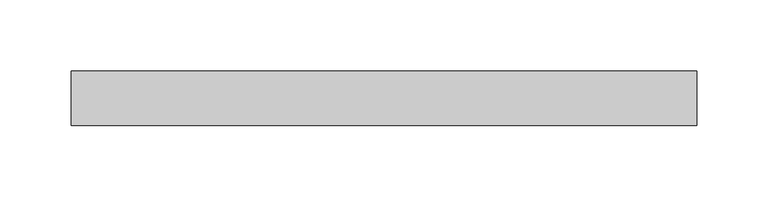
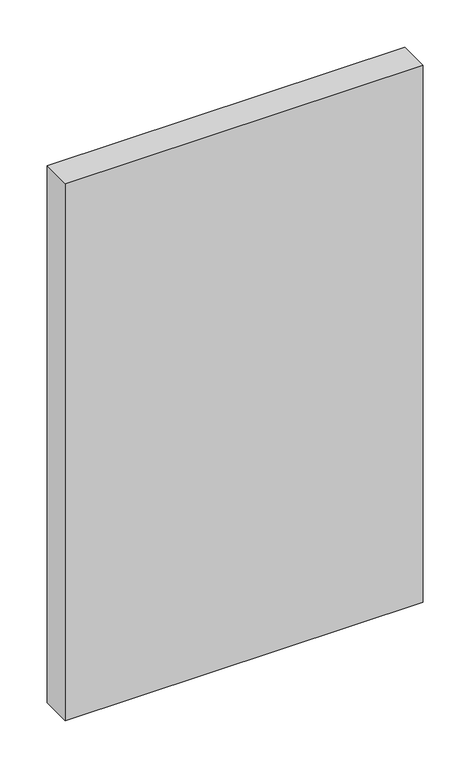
"""IFC4 building model written with IfcOpenShell, lengths in millimetres: proxy geometry, FOUNDATION^PEDESTAL_PLINTH-17.25x27.38."""

from ifc_helpers import new_model, si_unit, frame, origin, place, context, project, spatial, polyline, outline, extrude, source, transform, mapped, element, save


def generic_models_fd82de5f(model_context):
    return source(origin(), model_context, "Body", "SweptSolid", [
        extrude(outline(polyline([(438.15, 0.0), (0.0, 0.0), (0.0, 38.1), (438.15, 38.1), (438.15, 0.0)])), frame((0.0, 0.0, -695.325), z_axis=(0.0, 0.0, 1.0), x_axis=(1.0, 0.0, 0.0)), (0.0, 0.0, 1.0), 695.325),
    ])


if __name__ == "__main__":
    model = new_model("IFC4")
    model_context = context("Model", 3, world=origin())
    ifc_project = project(units=[si_unit("LENGTHUNIT", "METRE", prefix="MILLI")], contexts=[model_context])
    site = spatial("IfcSite", under=ifc_project)
    building = spatial("IfcBuilding", under=site)
    placement = place(None, origin())
    generic_models_shape = generic_models_fd82de5f(model_context)
    element("IfcBuildingElementProxy", 1, Name="FOUNDATION^PEDESTAL_PLINTH-17.25x27.38", ObjectType="FOUNDATION^PEDESTAL_PLINTH-17.25x27.38", at=placement, inside=building, context=model_context, shape_type="MappedRepresentation", body=[
        mapped(generic_models_shape, transform((0.0, 0.0, 0.0), x_axis=(1.0, 0.0, 0.0), y_axis=(0.0, 1.0, 0.0), z_axis=(0.0, 0.0, 1.0))),
    ])
    save(model, "model.ifc")
